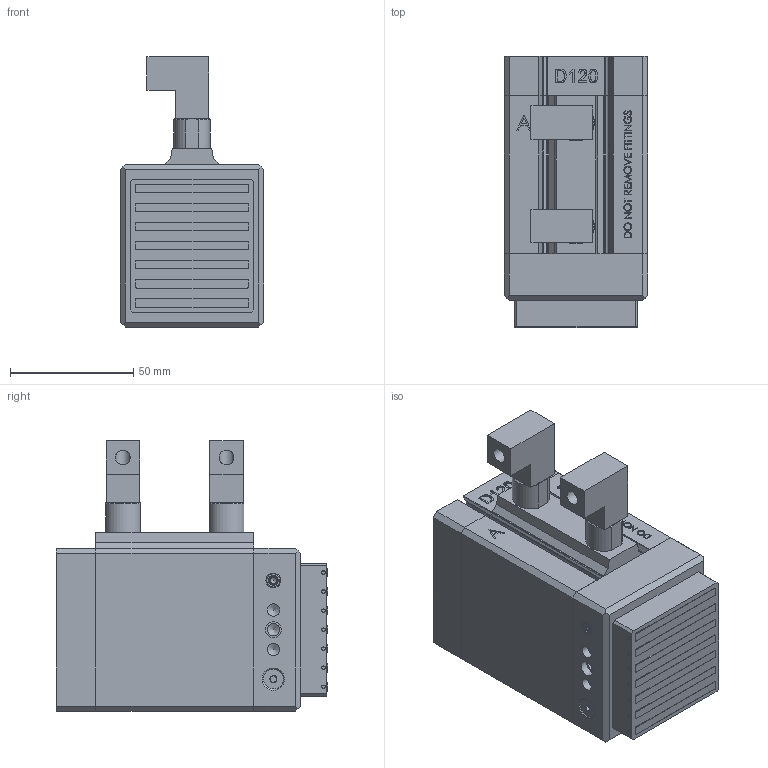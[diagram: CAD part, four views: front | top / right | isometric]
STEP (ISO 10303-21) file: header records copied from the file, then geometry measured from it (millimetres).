
FILE_DESCRIPTION (( 'STEP AP214' ), '1' );
FILE_NAME ('81401457_CFM.STEP', '2024-03-29T20:42:05', ( '' ), ( '' ), 'SwSTEP 2.0', 'SolidWorks 2022', '' );
FILE_SCHEMA (( 'AUTOMOTIVE_DESIGN' ));
Length unit declared in the file: millimetre
Products named in the file (3): 81401457_CFM; air fitting_G18_6MM; 81401457_s
Assembly tree (3 placements, depth 2):
  81401457_CFM
    81401457_s
    air fitting_G18_6MM  x2
Bounding box: 58 x 110 x 109.6 mm (x, y, z)
Volume: 415914.2 mm3; surface area: 89320.5 mm2
Topology: 20 solids, 20 shells, 1841 faces, 4813 edges, 3171 vertices
Faces by surface type: plane 1056, bspline 394, cylinder 271, cone 114, torus 6
Full cylindrical faces by diameter (mm): 0.8 x2, 1.5 x14, 2.5 x2, 2.6 x2, 3 x4, 3.3 x2, 4.2 x2, 4.5 x2, 5 x76, 5.2 x2, 5.3 x2, 6 x14, 6.5 x2, 6.8 x1, 8 x2, 8.5 x4, 8.565 x2, 8.8 x2, 9 x2, 10 x2
Entity records: 110983 total; most frequent: CARTESIAN_POINT 51500, ORIENTED_EDGE 8724, DIRECTION 6739, EDGE_CURVE 4362, LINE 2973, VECTOR 2973, VERTEX_POINT 2957, EDGE_LOOP 2141
